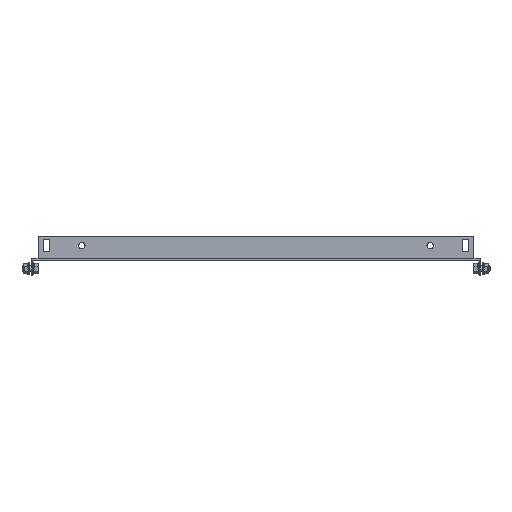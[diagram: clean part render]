
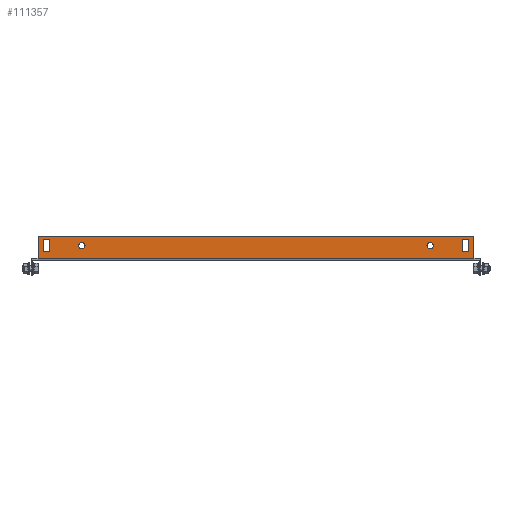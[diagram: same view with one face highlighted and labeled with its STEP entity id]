
A CAD part, front view. The second image highlights one B-rep face of the part: STEP entity #111357.
In plain terms, the highlighted planar face has unit normal (0, -1, 0).
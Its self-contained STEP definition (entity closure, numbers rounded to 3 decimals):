
#102352 = VERTEX_POINT('',#102353);
#102353 = CARTESIAN_POINT('',(242.,-434.5,0.));
#102359 = EDGE_CURVE('',#102360,#102352,#102362,.T.);
#102360 = VERTEX_POINT('',#102361);
#102361 = CARTESIAN_POINT('',(-242.,-434.5,0.));
#102362 = LINE('',#102363,#102364);
#102363 = CARTESIAN_POINT('',(-242.,-434.5,0.));
#102364 = VECTOR('',#102365,1.);
#102365 = DIRECTION('',(1.,-0.,-0.));
#111236 = VERTEX_POINT('',#111237);
#111237 = CARTESIAN_POINT('',(-242.,-434.5,2.6));
#111252 = EDGE_CURVE('',#111236,#102360,#111253,.T.);
#111253 = LINE('',#111254,#111255);
#111254 = CARTESIAN_POINT('',(-242.,-434.5,2.6));
#111255 = VECTOR('',#111256,1.);
#111256 = DIRECTION('',(0.,0.,-1.));
#111276 = VERTEX_POINT('',#111277);
#111277 = CARTESIAN_POINT('',(242.,-434.5,2.6));
#111283 = EDGE_CURVE('',#111276,#102352,#111284,.T.);
#111284 = LINE('',#111285,#111286);
#111285 = CARTESIAN_POINT('',(242.,-434.5,2.));
#111286 = VECTOR('',#111287,1.);
#111287 = DIRECTION('',(-0.,0.,-1.));
#111309 = VERTEX_POINT('',#111310);
#111310 = CARTESIAN_POINT('',(242.,-434.5,26.));
#111316 = EDGE_CURVE('',#111276,#111309,#111317,.T.);
#111317 = LINE('',#111318,#111319);
#111318 = CARTESIAN_POINT('',(242.,-434.5,26.));
#111319 = VECTOR('',#111320,1.);
#111320 = DIRECTION('',(-0.,0.,1.));
#111331 = EDGE_CURVE('',#111332,#111236,#111334,.T.);
#111332 = VERTEX_POINT('',#111333);
#111333 = CARTESIAN_POINT('',(-242.,-434.5,26.));
#111334 = LINE('',#111335,#111336);
#111335 = CARTESIAN_POINT('',(-242.,-434.5,2.));
#111336 = VECTOR('',#111337,1.);
#111337 = DIRECTION('',(-0.,0.,-1.));
#111357 = ADVANCED_FACE('',(#111358,#111392,#111403,#111414,#111448),
  #111461,.F.);
#111358 = FACE_BOUND('',#111359,.T.);
#111359 = EDGE_LOOP('',(#111360,#111370,#111378,#111386));
#111360 = ORIENTED_EDGE('',*,*,#111361,.F.);
#111361 = EDGE_CURVE('',#111362,#111364,#111366,.T.);
#111362 = VERTEX_POINT('',#111363);
#111363 = CARTESIAN_POINT('',(236.5,-434.5,9.));
#111364 = VERTEX_POINT('',#111365);
#111365 = CARTESIAN_POINT('',(236.5,-434.5,23.));
#111366 = LINE('',#111367,#111368);
#111367 = CARTESIAN_POINT('',(236.5,-434.5,23.));
#111368 = VECTOR('',#111369,1.);
#111369 = DIRECTION('',(-0.,-0.,1.));
#111370 = ORIENTED_EDGE('',*,*,#111371,.F.);
#111371 = EDGE_CURVE('',#111372,#111362,#111374,.T.);
#111372 = VERTEX_POINT('',#111373);
#111373 = CARTESIAN_POINT('',(229.5,-434.5,9.));
#111374 = LINE('',#111375,#111376);
#111375 = CARTESIAN_POINT('',(236.5,-434.5,9.));
#111376 = VECTOR('',#111377,1.);
#111377 = DIRECTION('',(1.,-0.,-0.));
#111378 = ORIENTED_EDGE('',*,*,#111379,.F.);
#111379 = EDGE_CURVE('',#111380,#111372,#111382,.T.);
#111380 = VERTEX_POINT('',#111381);
#111381 = CARTESIAN_POINT('',(229.5,-434.5,23.));
#111382 = LINE('',#111383,#111384);
#111383 = CARTESIAN_POINT('',(229.5,-434.5,9.));
#111384 = VECTOR('',#111385,1.);
#111385 = DIRECTION('',(0.,-0.,-1.));
#111386 = ORIENTED_EDGE('',*,*,#111387,.F.);
#111387 = EDGE_CURVE('',#111364,#111380,#111388,.T.);
#111388 = LINE('',#111389,#111390);
#111389 = CARTESIAN_POINT('',(229.5,-434.5,23.));
#111390 = VECTOR('',#111391,1.);
#111391 = DIRECTION('',(-1.,-0.,-0.));
#111392 = FACE_BOUND('',#111393,.T.);
#111393 = EDGE_LOOP('',(#111394));
#111394 = ORIENTED_EDGE('',*,*,#111395,.F.);
#111395 = EDGE_CURVE('',#111396,#111396,#111398,.T.);
#111396 = VERTEX_POINT('',#111397);
#111397 = CARTESIAN_POINT('',(193.5,-434.5,19.5));
#111398 = CIRCLE('',#111399,3.5);
#111399 = AXIS2_PLACEMENT_3D('',#111400,#111401,#111402);
#111400 = CARTESIAN_POINT('',(193.5,-434.5,16.));
#111401 = DIRECTION('',(0.,-1.,0.));
#111402 = DIRECTION('',(0.,0.,1.));
#111403 = FACE_BOUND('',#111404,.T.);
#111404 = EDGE_LOOP('',(#111405));
#111405 = ORIENTED_EDGE('',*,*,#111406,.F.);
#111406 = EDGE_CURVE('',#111407,#111407,#111409,.T.);
#111407 = VERTEX_POINT('',#111408);
#111408 = CARTESIAN_POINT('',(-193.5,-434.5,12.5));
#111409 = CIRCLE('',#111410,3.5);
#111410 = AXIS2_PLACEMENT_3D('',#111411,#111412,#111413);
#111411 = CARTESIAN_POINT('',(-193.5,-434.5,16.));
#111412 = DIRECTION('',(0.,-1.,0.));
#111413 = DIRECTION('',(0.,0.,-1.));
#111414 = FACE_BOUND('',#111415,.T.);
#111415 = EDGE_LOOP('',(#111416,#111426,#111434,#111442));
#111416 = ORIENTED_EDGE('',*,*,#111417,.F.);
#111417 = EDGE_CURVE('',#111418,#111420,#111422,.T.);
#111418 = VERTEX_POINT('',#111419);
#111419 = CARTESIAN_POINT('',(-236.5,-434.5,23.));
#111420 = VERTEX_POINT('',#111421);
#111421 = CARTESIAN_POINT('',(-236.5,-434.5,9.));
#111422 = LINE('',#111423,#111424);
#111423 = CARTESIAN_POINT('',(-236.5,-434.5,9.));
#111424 = VECTOR('',#111425,1.);
#111425 = DIRECTION('',(-0.,-0.,-1.));
#111426 = ORIENTED_EDGE('',*,*,#111427,.F.);
#111427 = EDGE_CURVE('',#111428,#111418,#111430,.T.);
#111428 = VERTEX_POINT('',#111429);
#111429 = CARTESIAN_POINT('',(-229.5,-434.5,23.));
#111430 = LINE('',#111431,#111432);
#111431 = CARTESIAN_POINT('',(-236.5,-434.5,23.));
#111432 = VECTOR('',#111433,1.);
#111433 = DIRECTION('',(-1.,-0.,-0.));
#111434 = ORIENTED_EDGE('',*,*,#111435,.F.);
#111435 = EDGE_CURVE('',#111436,#111428,#111438,.T.);
#111436 = VERTEX_POINT('',#111437);
#111437 = CARTESIAN_POINT('',(-229.5,-434.5,9.));
#111438 = LINE('',#111439,#111440);
#111439 = CARTESIAN_POINT('',(-229.5,-434.5,23.));
#111440 = VECTOR('',#111441,1.);
#111441 = DIRECTION('',(-0.,-0.,1.));
#111442 = ORIENTED_EDGE('',*,*,#111443,.F.);
#111443 = EDGE_CURVE('',#111420,#111436,#111444,.T.);
#111444 = LINE('',#111445,#111446);
#111445 = CARTESIAN_POINT('',(-229.5,-434.5,9.));
#111446 = VECTOR('',#111447,1.);
#111447 = DIRECTION('',(1.,-0.,-0.));
#111448 = FACE_BOUND('',#111449,.T.);
#111449 = EDGE_LOOP('',(#111450,#111451,#111452,#111453,#111454,#111455)
  );
#111450 = ORIENTED_EDGE('',*,*,#111331,.T.);
#111451 = ORIENTED_EDGE('',*,*,#111252,.T.);
#111452 = ORIENTED_EDGE('',*,*,#102359,.T.);
#111453 = ORIENTED_EDGE('',*,*,#111283,.F.);
#111454 = ORIENTED_EDGE('',*,*,#111316,.T.);
#111455 = ORIENTED_EDGE('',*,*,#111456,.T.);
#111456 = EDGE_CURVE('',#111309,#111332,#111457,.T.);
#111457 = LINE('',#111458,#111459);
#111458 = CARTESIAN_POINT('',(-242.,-434.5,26.));
#111459 = VECTOR('',#111460,1.);
#111460 = DIRECTION('',(-1.,-0.,-0.));
#111461 = PLANE('',#111462);
#111462 = AXIS2_PLACEMENT_3D('',#111463,#111464,#111465);
#111463 = CARTESIAN_POINT('',(242.,-434.5,2.));
#111464 = DIRECTION('',(-0.,1.,0.));
#111465 = DIRECTION('',(0.,0.,1.));
